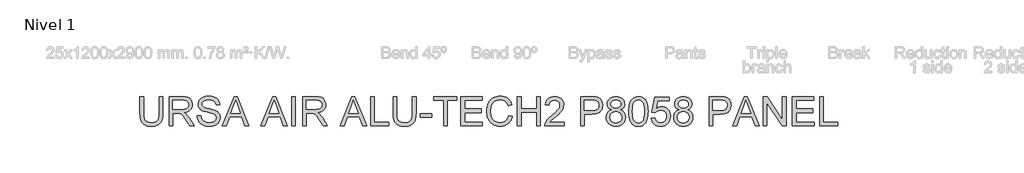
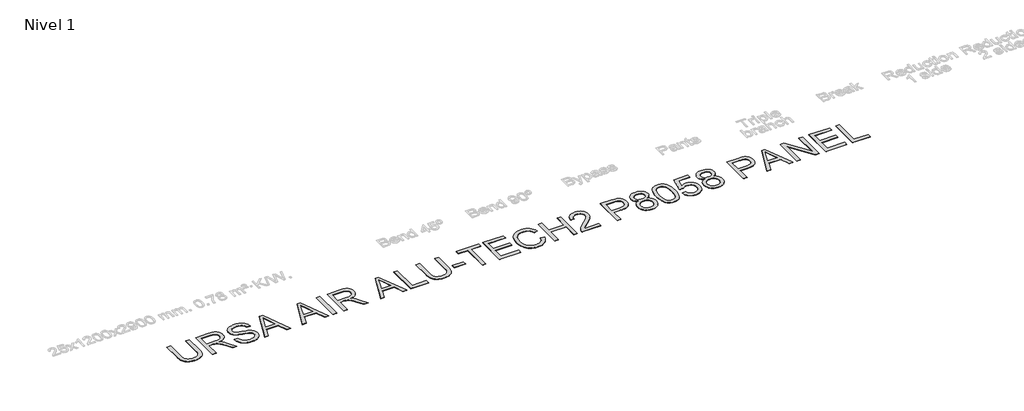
# One storey, part 3 of 6: 1 proxy.
"""IFC4 building model written with IfcOpenShell, lengths in millimetres."""

from ifc_helpers import new_model, si_unit, origin, origin_with_axes, place, context, project, spatial, polyline, outline, extrude, element, save

model = new_model("IFC4")

# Units and contexts
model_context = context("Model", 3, world=origin())
ifc_project = project(units=[si_unit("LENGTHUNIT", "METRE", prefix="MILLI")], contexts=[model_context])

# Site, building, storey
site = spatial("IfcSite", under=ifc_project)
building = spatial("IfcBuilding", under=site)
storey = spatial("IfcBuildingStorey", under=building, Name="Nivel 1", Elevation=0.0)

# Proxy
placement = place(None, origin())
element("IfcBuildingElementProxy", 1, Name="Texto de modelo 2", ObjectType="Texto de modelo 2", at=placement, inside=storey, context=model_context, shape_type="SweptSolid", body=[
    extrude(outline(polyline([(-18860.536209, -2321.7490961), (-18734.9658214, -2321.7490961), (-18734.9658214, -2901.2858659), (-18737.0964712, -2973.0458476), (-18743.4884209, -3037.0036653), (-18754.1416704, -3093.159319), (-18769.0562196, -3141.5128087), (-18789.5196556, -3183.8958802), (-18816.8195653, -3222.1402793), (-18850.9559488, -3256.246006), (-18891.928806, -3286.2130602), (-18939.7841222, -3310.6235634), (-18994.5678826, -3328.0596371), (-19056.2800873, -3338.5212813), (-19124.9207362, -3342.0084961), (-19191.8675952, -3338.9734696), (-19252.4225044, -3329.8683902), (-19306.585464, -3314.6932579), (-19354.3564739, -3293.4480727), (-19395.7431984, -3266.4470671), (-19430.7533016, -3234.0044737), (-19459.3867835, -3196.1202924), (-19481.6436442, -3152.7945232), (-19498.3286256, -3102.5403099), (-19510.2464694, -3043.8707958), (-19517.3971756, -2976.7859812), (-19519.7807444, -2901.2858659), (-19519.7807444, -2321.7490961), (-19394.2103567, -2321.7490961), (-19394.2103567, -2896.8712819), (-19392.6621866, -2957.5794753), (-19388.0176765, -3009.7190839), (-19380.2768261, -3053.2901078), (-19369.4396357, -3088.2925467), (-19354.8316548, -3117.2555897), (-19335.7784331, -3142.7084252), (-19312.2799707, -3164.6510534), (-19284.3362675, -3183.0834742), (-19252.4838181, -3197.6761266), (-19217.259117, -3208.0994498), (-19178.6621644, -3214.3534438), (-19136.6929601, -3216.4381084), (-19067.4851597, -3212.3147644), (-19008.9765941, -3199.9447323), (-18961.1672631, -3179.3280121), (-18941.2748107, -3165.927144), (-18924.0571669, -3150.4646039), (-18909.1694424, -3132.0705042), (-18896.2667478, -3109.8749571), (-18876.4164485, -3054.0795212), (-18864.5062689, -2983.0782961), (-18860.536209, -2896.8712819), (-18860.536209, -2321.7490961)])), origin_with_axes(), (0.0, 0.0, 1.0), 10.0),
    extrude(outline(polyline([(-18515.2176429, -3326.3121976), (-18515.2176429, -2321.7490961), (-18082.3431619, -2321.7490961), (-18020.2094258, -2323.4428862), (-17966.0004809, -2328.5242562), (-17919.7163274, -2336.9932063), (-17881.3569652, -2348.8497364), (-17848.6921097, -2365.0058874), (-17819.4914764, -2386.3737), (-17793.7550651, -2412.9531741), (-17771.482876, -2444.7443099), (-17753.5103077, -2480.0379888), (-17740.6727589, -2517.1250924), (-17732.9702296, -2556.0056208), (-17730.4027199, -2596.6795739), (-17734.6563554, -2648.2750237), (-17747.4172621, -2695.6398306), (-17768.68544, -2738.7739945), (-17798.460889, -2777.6775155), (-17837.1268195, -2811.1087918), (-17885.066442, -2837.8262217), (-17942.2797565, -2857.8298052), (-18008.7667629, -2871.1195423), (-17967.3800384, -2898.1588689), (-17937.3976558, -2924.8303136), (-17885.9554902, -2985.8374111), (-17835.6169705, -3054.0795212), (-17668.1080353, -3326.3121976), (-17814.0345601, -3326.3121976), (-17944.7552957, -3118.0909884), (-17997.0558527, -3038.6284774), (-18039.1783411, -2980.2578675), (-18074.2804148, -2940.0667595), (-18105.5197276, -2915.1427544), (-18135.1035714, -2900.519445), (-18165.2392382, -2891.2304247), (-18238.0798732, -2886.8158407), (-18389.6472552, -2886.8158407), (-18389.6472552, -3326.3121976), (-18515.2176429, -3326.3121976)]), holes=[polyline([(-18389.6472552, -2761.245453), (-18108.5854109, -2761.245453), (-18027.8659698, -2756.8002123), (-17965.2340601, -2743.4644899), (-17940.0494719, -2733.2404362), (-17918.0838511, -2720.3492379), (-17899.3371977, -2704.7908952), (-17883.8095118, -2686.565408), (-17871.631085, -2666.5694887), (-17862.9322086, -2645.6998497), (-17857.7128828, -2623.956491), (-17855.9731075, -2601.3394125), (-17859.2917097, -2569.22638), (-17869.2475162, -2540.0870603), (-17885.840527, -2513.9214534), (-17909.0707422, -2490.7295593), (-17939.4746562, -2471.7376513), (-17977.5887638, -2458.1720027), (-18023.4130648, -2450.0326135), (-18076.9475593, -2447.3194838), (-18389.6472552, -2447.3194838), (-18389.6472552, -2761.245453)])]), origin_with_axes(), (0.0, 0.0, 1.0), 10.0),
    extrude(outline(polyline([(-17557.7434368, -2980.9936315), (-17432.1730491, -2980.9936315), (-17426.4248929, -3017.5442406), (-17417.7643376, -3050.6766127), (-17406.1913832, -3080.3907481), (-17391.7060296, -3106.6866465), (-17373.572513, -3130.0931385), (-17351.0550692, -3151.1390543), (-17324.1536983, -3169.8243939), (-17292.8684003, -3186.1491575), (-17258.3488064, -3199.4005735), (-17221.7445479, -3208.8658707), (-17183.0556247, -3214.545049), (-17142.2820369, -3216.4381084), (-17072.3231442, -3210.7052806), (-17040.6086505, -3203.5392459), (-17011.070792, -3193.5067974), (-16984.4376683, -3180.9681527), (-16961.4373794, -3166.2835297), (-16942.0699252, -3149.4529284), (-16926.3353057, -3130.4763489), (-16914.1568789, -3110.1738613), (-16905.4580025, -3089.3655359), (-16900.2386767, -3068.0513728), (-16898.4989014, -3046.231372), (-16903.710563, -3004.200854), (-16919.3455478, -2967.872507), (-16932.4973292, -2951.7546771), (-16951.1060267, -2936.8784489), (-16975.1716406, -2923.2438225), (-17004.6941707, -2910.8507977), (-17071.0049003, -2891.1384542), (-17187.5315223, -2862.903511), (-17307.5530232, -2831.173689), (-17351.3539733, -2815.8835935), (-17384.3483897, -2800.9767085), (-17417.8793007, -2780.973125), (-17446.8576721, -2758.7315927), (-17471.2835037, -2734.2521116), (-17491.1567957, -2707.5346817), (-17506.55419, -2678.8552145), (-17517.5523288, -2648.4896215), (-17524.1512121, -2616.4379027), (-17526.3508399, -2582.700058), (-17523.6300459, -2545.3063861), (-17515.4676642, -2509.1543158), (-17501.8636946, -2474.2438473), (-17482.8181371, -2440.5749806), (-17458.5455896, -2409.5196088), (-17429.26065, -2382.4496253), (-17394.9633181, -2359.3650301), (-17355.6535941, -2340.2658232), (-17312.6573859, -2325.2976245), (-17267.3006016, -2314.6060541), (-17219.5832411, -2308.1911118), (-17169.5053045, -2306.0527977), (-17114.8748283, -2308.2907465), (-17063.5552899, -2315.0045929), (-17015.5466896, -2326.1943369), (-16970.8490272, -2341.8599785), (-16930.2900372, -2361.863562), (-16894.6974541, -2386.0671316), (-16864.0712781, -2414.4706873), (-16838.4115089, -2447.0742292), (-16817.9174161, -2482.9273953), (-16802.788269, -2521.0798239), (-16793.0240677, -2561.5315149), (-16788.6248122, -2604.2824684), (-16914.1951999, -2604.2824684), (-16922.5951721, -2564.2139878), (-16937.2491383, -2529.3571687), (-16958.1570983, -2499.7120113), (-16985.3190523, -2475.2785155), (-17019.2408379, -2456.1793085), (-17060.428293, -2442.5370179), (-17108.8814174, -2434.3516435), (-17164.6002113, -2431.6231854), (-17222.0971014, -2434.3209867), (-17271.2246762, -2442.4143906), (-17311.9829356, -2455.903397), (-17344.3718796, -2474.7880061), (-17369.0506301, -2497.4893909), (-17386.678309, -2522.4287245), (-17397.2549164, -2549.6060069), (-17400.7804522, -2579.0212381), (-17398.2819203, -2604.3284537), (-17390.7863246, -2627.2750931), (-17378.2936652, -2647.8611564), (-17360.803942, -2666.0866436), (-17333.2741061, -2683.3464406), (-17289.9253443, -2700.7901785), (-17230.7576567, -2718.4178574), (-17155.7710434, -2736.2294774), (-17017.3247859, -2769.8906799), (-16968.6110783, -2785.1117975), (-16933.5703183, -2799.2599259), (-16895.0730004, -2820.7043805), (-16861.9866134, -2844.8159796), (-16834.3111575, -2871.5947232), (-16812.0466326, -2901.0406112), (-16794.9324556, -2933.0003595), (-16782.7080435, -2967.320684), (-16775.3733962, -3004.0015846), (-16772.9285137, -3043.0430613), (-16775.7412782, -3082.3221285), (-16784.1795714, -3120.4515645), (-16798.2433935, -3157.4313692), (-16817.9327445, -3193.2615427), (-16842.9027349, -3226.5548633), (-16872.8084754, -3255.9241092), (-16907.6499661, -3281.3692806), (-16947.4272068, -3302.8903773), (-16990.9829022, -3320.0045543), (-17037.1597568, -3332.2289664), (-17085.9577706, -3339.5636137), (-17137.3769436, -3342.0084961), (-17201.6106728, -3339.3720085), (-17260.4028142, -3331.4625456), (-17313.7533677, -3318.2801074), (-17361.6623334, -3299.824694), (-17404.4209511, -3276.0656485), (-17442.3204608, -3246.972314), (-17475.3608625, -3212.5446906), (-17503.5421562, -3172.7827783), (-17526.243541, -3128.974164), (-17542.844216, -3082.4064348), (-17553.3441813, -3033.0795906), (-17557.7434368, -2980.9936315)])), origin_with_axes(), (0.0, 0.0, 1.0), 10.0),
    extrude(outline(polyline([(-16701.5594067, -3326.3121976), (-16300.5680319, -2321.7490961), (-16193.6369987, -2321.7490961), (-15792.6456239, -3326.3121976), (-15925.3283969, -3326.3121976), (-16040.352834, -3012.3862284), (-16454.0974513, -3012.3862284), (-16568.8766338, -3326.3121976), (-16701.5594067, -3326.3121976)]), holes=[polyline([(-16407.9895745, -2886.8158407), (-16086.2154561, -2886.8158407), (-16176.7144269, -2639.8443946), (-16247.1025153, -2447.3194838), (-16309.6424545, -2618.2619842), (-16407.9895745, -2886.8158407)])]), origin_with_axes(), (0.0, 0.0, 1.0), 10.0),
    extrude(outline(polyline([(-15383.070336, -3326.3121976), (-14982.0789612, -2321.7490961), (-14875.147928, -2321.7490961), (-14474.1565532, -3326.3121976), (-14606.8393261, -3326.3121976), (-14721.8637633, -3012.3862284), (-15135.6083805, -3012.3862284), (-15250.387563, -3326.3121976), (-15383.070336, -3326.3121976)]), holes=[polyline([(-15089.5005038, -2886.8158407), (-14767.7263854, -2886.8158407), (-14858.2253562, -2639.8443946), (-14928.6134446, -2447.3194838), (-14991.1533838, -2618.2619842), (-15089.5005038, -2886.8158407)])]), origin_with_axes(), (0.0, 0.0, 1.0), 10.0),
    extrude(outline(polyline([(-14324.3059538, -3326.3121976), (-14324.3059538, -2321.7490961), (-14198.7355662, -2321.7490961), (-14198.7355662, -3326.3121976), (-14324.3059538, -3326.3121976)])), origin_with_axes(), (0.0, 0.0, 1.0), 10.0),
    extrude(outline(polyline([(-13947.5947908, -3326.3121976), (-13947.5947908, -2321.7490961), (-13514.7203098, -2321.7490961), (-13452.5865737, -2323.4428862), (-13398.3776288, -2328.5242562), (-13352.0934753, -2336.9932063), (-13313.7341131, -2348.8497364), (-13281.0692576, -2365.0058874), (-13251.8686242, -2386.3737), (-13226.132213, -2412.9531741), (-13203.8600239, -2444.7443099), (-13185.8874556, -2480.0379888), (-13173.0499068, -2517.1250924), (-13165.3473775, -2556.0056208), (-13162.7798677, -2596.6795739), (-13167.0335033, -2648.2750237), (-13179.79441, -2695.6398306), (-13201.0625879, -2738.7739945), (-13230.8380369, -2777.6775155), (-13269.5039674, -2811.1087918), (-13317.4435899, -2837.8262217), (-13374.6569043, -2857.8298052), (-13441.1439108, -2871.1195423), (-13399.7571863, -2898.1588689), (-13369.7748037, -2924.8303136), (-13318.332638, -2985.8374111), (-13267.9941184, -3054.0795212), (-13100.4851832, -3326.3121976), (-13246.411708, -3326.3121976), (-13377.1324436, -3118.0909884), (-13429.4330006, -3038.6284774), (-13471.555489, -2980.2578675), (-13506.6575627, -2940.0667595), (-13537.8968755, -2915.1427544), (-13567.4807193, -2900.519445), (-13597.616386, -2891.2304247), (-13670.4570211, -2886.8158407), (-13822.0244031, -2886.8158407), (-13822.0244031, -3326.3121976), (-13947.5947908, -3326.3121976)]), holes=[polyline([(-13822.0244031, -2761.245453), (-13540.9625588, -2761.245453), (-13460.2431177, -2756.8002123), (-13397.611208, -2743.4644899), (-13372.4266197, -2733.2404362), (-13350.4609989, -2720.3492379), (-13331.7143456, -2704.7908952), (-13316.1866597, -2686.565408), (-13304.0082329, -2666.5694887), (-13295.3093565, -2645.6998497), (-13290.0900307, -2623.956491), (-13288.3502554, -2601.3394125), (-13291.6688576, -2569.22638), (-13301.6246641, -2540.0870603), (-13318.2176749, -2513.9214534), (-13341.4478901, -2490.7295593), (-13371.8518041, -2471.7376513), (-13409.9659117, -2458.1720027), (-13455.7902127, -2450.0326135), (-13509.3247072, -2447.3194838), (-13822.0244031, -2447.3194838), (-13822.0244031, -2761.245453)])]), origin_with_axes(), (0.0, 0.0, 1.0), 10.0),
    extrude(outline(polyline([(-12667.6107022, -3326.3121976), (-12266.6193275, -2321.7490961), (-12159.6882942, -2321.7490961), (-11758.6969195, -3326.3121976), (-11891.3796924, -3326.3121976), (-12006.4041296, -3012.3862284), (-12420.1487468, -3012.3862284), (-12534.9279293, -3326.3121976), (-12667.6107022, -3326.3121976)]), holes=[polyline([(-12374.0408701, -2886.8158407), (-12052.2667516, -2886.8158407), (-12142.7657224, -2639.8443946), (-12213.1538109, -2447.3194838), (-12275.69375, -2618.2619842), (-12374.0408701, -2886.8158407)])]), origin_with_axes(), (0.0, 0.0, 1.0), 10.0),
    extrude(outline(polyline([(-11624.5426186, -3326.3121976), (-11624.5426186, -2321.7490961), (-11498.9722309, -2321.7490961), (-11498.9722309, -3200.7418099), (-10996.6906801, -3200.7418099), (-10996.6906801, -3326.3121976), (-11624.5426186, -3326.3121976)])), origin_with_axes(), (0.0, 0.0, 1.0), 10.0),
    extrude(outline(polyline([(-10196.1794586, -2321.7490961), (-10070.609071, -2321.7490961), (-10070.609071, -2901.2858659), (-10072.7397208, -2973.0458476), (-10079.1316705, -3037.0036653), (-10089.7849199, -3093.159319), (-10104.6994692, -3141.5128087), (-10125.1629052, -3183.8958802), (-10152.4628149, -3222.1402793), (-10186.5991983, -3256.246006), (-10227.5720556, -3286.2130602), (-10275.4273718, -3310.6235634), (-10330.2111322, -3328.0596371), (-10391.9233369, -3338.5212813), (-10460.5639858, -3342.0084961), (-10527.5108448, -3338.9734696), (-10588.065754, -3329.8683902), (-10642.2287136, -3314.6932579), (-10689.9997235, -3293.4480727), (-10731.386448, -3266.4470671), (-10766.3965512, -3234.0044737), (-10795.0300331, -3196.1202924), (-10817.2868938, -3152.7945232), (-10833.9718752, -3102.5403099), (-10845.889719, -3043.8707958), (-10853.0404252, -2976.7859812), (-10855.423994, -2901.2858659), (-10855.423994, -2321.7490961), (-10729.8536063, -2321.7490961), (-10729.8536063, -2896.8712819), (-10728.3054362, -2957.5794753), (-10723.6609261, -3009.7190839), (-10715.9200757, -3053.2901078), (-10705.0828853, -3088.2925467), (-10690.4749044, -3117.2555897), (-10671.4216827, -3142.7084252), (-10647.9232203, -3164.6510534), (-10619.9795171, -3183.0834742), (-10588.1270677, -3197.6761266), (-10552.9023666, -3208.0994498), (-10514.305414, -3214.3534438), (-10472.3362097, -3216.4381084), (-10403.1284093, -3212.3147644), (-10344.6198437, -3199.9447323), (-10296.8105127, -3179.3280121), (-10276.9180603, -3165.927144), (-10259.7004165, -3150.4646039), (-10244.812692, -3132.0705042), (-10231.9099974, -3109.8749571), (-10212.0596981, -3054.0795212), (-10200.1495185, -2983.0782961), (-10196.1794586, -2896.8712819), (-10196.1794586, -2321.7490961)])), origin_with_axes(), (0.0, 0.0, 1.0), 10.0),
    extrude(outline(polyline([(-9929.3423848, -3028.0825269), (-9929.3423848, -2902.5121392), (-9536.9349233, -2902.5121392), (-9536.9349233, -3028.0825269), (-9929.3423848, -3028.0825269)])), origin_with_axes(), (0.0, 0.0, 1.0), 10.0),
    extrude(outline(polyline([(-9128.8311633, -3326.3121976), (-9128.8311633, -2447.3194838), (-9458.453431, -2447.3194838), (-9458.453431, -2321.7490961), (-8673.6385079, -2321.7490961), (-8673.6385079, -2447.3194838), (-9003.2607756, -2447.3194838), (-9003.2607756, -3326.3121976), (-9128.8311633, -3326.3121976)])), origin_with_axes(), (0.0, 0.0, 1.0), 10.0),
    extrude(outline(polyline([(-8532.3718218, -3326.3121976), (-8532.3718218, -2321.7490961), (-7810.3420926, -2321.7490961), (-7810.3420926, -2447.3194838), (-8406.8014341, -2447.3194838), (-8406.8014341, -2745.5491546), (-7841.7346895, -2745.5491546), (-7841.7346895, -2871.1195423), (-8406.8014341, -2871.1195423), (-8406.8014341, -3200.7418099), (-7794.6457941, -3200.7418099), (-7794.6457941, -3326.3121976), (-8532.3718218, -3326.3121976)])), origin_with_axes(), (0.0, 0.0, 1.0), 10.0),
    extrude(outline(polyline([(-6899.9567819, -2969.2214076), (-6774.3863942, -3001.5950232), (-6799.2337573, -3079.6856409), (-6832.3278084, -3147.9200868), (-6873.6685476, -3206.2983609), (-6897.4314252, -3231.7914335), (-6923.2559749, -3254.8204632), (-6979.9711158, -3292.9652276), (-7042.694996, -3320.2114879), (-7111.4276154, -3336.559244), (-7186.1689741, -3342.0084961), (-7262.7420786, -3337.8851521), (-7331.8195874, -3325.51512), (-7393.4015005, -3304.8983998), (-7447.487818, -3276.0349916), (-7494.8219681, -3239.354091), (-7536.1473788, -3195.2848937), (-7571.4640504, -3143.8273996), (-7600.7719827, -3084.9816088), (-7623.7876, -3021.2920384), (-7640.2273266, -2955.3032055), (-7650.0911626, -2887.0151101), (-7653.379108, -2816.4277523), (-7649.661967, -2740.6900466), (-7638.510544, -2669.9494046), (-7619.924839, -2604.2058263), (-7593.9048521, -2543.4593119), (-7561.033063, -2488.7138725), (-7521.8919515, -2440.9735194), (-7476.4815178, -2400.2382526), (-7424.8017616, -2366.5080722), (-7368.6077869, -2340.0588896), (-7309.6546971, -2321.1666163), (-7247.9424925, -2309.8312523), (-7183.4711728, -2306.0527977), (-7111.6498775, -2310.9425625), (-7045.7913361, -2325.6118571), (-6985.8955488, -2350.0606813), (-6931.9625154, -2384.2890353), (-6884.8812843, -2427.3925424), (-6845.5409034, -2478.4668261), (-6813.9413729, -2537.5118863), (-6790.0826926, -2604.5277231), (-6915.6530803, -2634.448792), (-6935.4267376, -2585.0682984), (-6959.1857831, -2542.8768321), (-6986.9302169, -2507.8743931), (-7018.660039, -2480.0609814), (-7054.5591903, -2458.8694456), (-7094.811612, -2443.7326344), (-7139.4173039, -2434.6505476), (-7188.3762661, -2431.6231854), (-7244.7081966, -2434.9801086), (-7296.2270043, -2445.0508782), (-7342.9326893, -2461.8354942), (-7384.8252515, -2485.3339567), (-7421.3758606, -2514.4886048), (-7452.0556861, -2548.2417778), (-7476.8647282, -2586.5934758), (-7495.8029867, -2629.5436988), (-7509.8054951, -2675.1457377), (-7519.8072869, -2721.4528839), (-7525.8083619, -2768.4651372), (-7527.8087203, -2816.1824977), (-7525.4404799, -2876.1472629), (-7518.3357589, -2932.1879535), (-7506.4945572, -2984.3045694), (-7489.9168748, -3032.4971108), (-7468.3344644, -3075.8075515), (-7441.4790788, -3113.2778656), (-7409.3507178, -3144.908053), (-7371.9493817, -3170.6981137), (-7331.0914876, -3190.7093614), (-7288.5934529, -3205.0031097), (-7244.4552777, -3213.5793587), (-7198.6769619, -3216.4381084), (-7144.0848067, -3212.5446906), (-7093.8612501, -3200.8644373), (-7048.0062923, -3181.3973484), (-7006.5199331, -3154.1434239), (-6970.3831913, -3119.2252912), (-6940.5770855, -3076.7655776), (-6917.1016157, -3026.7642831), (-6899.9567819, -2969.2214076)])), origin_with_axes(), (0.0, 0.0, 1.0), 10.0),
    extrude(outline(polyline([(-6601.7271111, -3326.3121976), (-6601.7271111, -2321.7490961), (-6476.1567234, -2321.7490961), (-6476.1567234, -2729.8528561), (-5942.4825757, -2729.8528561), (-5942.4825757, -2321.7490961), (-5816.9121881, -2321.7490961), (-5816.9121881, -3326.3121976), (-5942.4825757, -3326.3121976), (-5942.4825757, -2855.4232438), (-6476.1567234, -2855.4232438), (-6476.1567234, -3326.3121976), (-6601.7271111, -3326.3121976)])), origin_with_axes(), (0.0, 0.0, 1.0), 10.0),
    extrude(outline(polyline([(-5000.7046681, -3200.7418099), (-5000.7046681, -3326.3121976), (-5659.9492034, -3326.3121976), (-5657.1900885, -3282.1050445), (-5646.460197, -3239.7373014), (-5632.7719211, -3205.6545674), (-5615.4967957, -3172.0776712), (-5594.6348209, -3139.0066126), (-5570.1859966, -3106.4413918), (-5540.6787949, -3073.1097502), (-5504.6416878, -3037.7394292), (-5412.9777573, -2960.8827491), (-5277.4745558, -2840.524023), (-5230.0484352, -2792.162869), (-5196.1726349, -2751.6805212), (-5172.4595746, -2715.382831), (-5155.5216744, -2679.5756501), (-5145.3589343, -2644.2589786), (-5141.9713542, -2609.4328164), (-5145.1673291, -2576.6683262), (-5154.7552536, -2546.555652), (-5170.7351277, -2519.0947939), (-5193.1069516, -2494.2857519), (-5220.6291233, -2473.7380096), (-5252.0600413, -2459.0610508), (-5287.3997055, -2450.2548756), (-5326.6481158, -2447.3194838), (-5367.9965192, -2450.1858977), (-5404.976324, -2458.7851393), (-5437.58753, -2473.1172087), (-5465.8301373, -2493.1821059), (-5488.6771421, -2518.3053805), (-5505.1015403, -2547.8125822), (-5515.1033321, -2581.703711), (-5518.6825173, -2619.9787669), (-5644.252905, -2604.2824684), (-5633.4540356, -2539.4585952), (-5613.8106699, -2482.8200964), (-5585.3228079, -2434.3669719), (-5547.9904496, -2394.0992219), (-5502.6719863, -2362.4460418), (-5450.2258094, -2339.8366276), (-5390.6519188, -2326.270979), (-5323.9503145, -2321.7490961), (-5256.650902, -2326.7768167), (-5196.7551147, -2341.8599785), (-5144.2629525, -2366.9985815), (-5099.1744155, -2402.1926257), (-5062.9610316, -2444.8362804), (-5037.0943288, -2492.3237146), (-5021.5743071, -2544.6549284), (-5016.4009665, -2601.8299218), (-5021.9805101, -2661.8866575), (-5038.7191409, -2720.9010609), (-5068.425612, -2780.9271398), (-5112.9086766, -2844.018902), (-5143.6038306, -2879.0060125), (-5183.8179312, -2919.3427405), (-5292.8029723, -3016.0650484), (-5437.257969, -3136.8529701), (-5468.5892523, -3168.7054195), (-5493.9117963, -3200.7418099), (-5000.7046681, -3200.7418099)])), origin_with_axes(), (0.0, 0.0, 1.0), 10.0),
    extrude(outline(polyline([(-4435.6379235, -3326.3121976), (-4435.6379235, -2321.7490961), (-4063.3413444, -2321.7490961), (-3976.6438208, -2324.1403291), (-3913.2454903, -2331.314028), (-3878.304365, -2338.8479447), (-3846.3216241, -2349.1869616), (-3817.2972675, -2362.3310787), (-3791.2312953, -2378.2802961), (-3767.847796, -2397.3641746), (-3746.870858, -2419.9122752), (-3728.3004815, -2445.9245979), (-3712.1366663, -2475.4011428), (-3699.0461987, -2507.3685553), (-3689.6958646, -2540.8534811), (-3684.0856642, -2575.8559201), (-3682.2155974, -2612.3758723), (-3687.2663106, -2674.0420918), (-3702.4184503, -2730.7725611), (-3727.6720164, -2782.5672803), (-3763.027009, -2829.4262495), (-3785.2627931, -2850.2345748), (-3811.5644397, -2868.2684568), (-3841.9319488, -2883.5278954), (-3876.3653203, -2896.0128906), (-3914.8645543, -2905.7234424), (-3957.4296508, -2912.6595509), (-4054.7574312, -2918.2084376), (-4310.0675358, -2918.2084376), (-4310.0675358, -3326.3121976), (-4435.6379235, -3326.3121976)]), holes=[polyline([(-4310.0675358, -2792.63805), (-4047.3997913, -2792.63805), (-3987.0058304, -2789.7563077), (-3936.054174, -2781.1110808), (-3894.5448223, -2766.7023693), (-3862.477775, -2746.5301732), (-3838.5501169, -2721.1309871), (-3821.4589325, -2691.0413056), (-3811.2042219, -2656.2611287), (-3807.7859851, -2616.7904563), (-3809.8016718, -2587.482524), (-3815.8487321, -2560.3818837), (-3825.9271659, -2535.4885353), (-3840.0369733, -2512.802479), (-3857.4270618, -2493.0594786), (-3877.346339, -2476.9952981), (-3899.7948049, -2464.6099376), (-3924.7724595, -2455.903397), (-3973.2102556, -2449.4654621), (-4050.3428472, -2447.3194838), (-4310.0675358, -2447.3194838), (-4310.0675358, -2792.63805)])]), origin_with_axes(), (0.0, 0.0, 1.0), 10.0),
    extrude(outline(polyline([(-3373.6852308, -2773.0176769), (-3409.8066442, -2757.9345151), (-3440.9156654, -2739.9082973), (-3467.0122944, -2718.9390236), (-3488.0965313, -2695.0266939), (-3504.3523169, -2668.4012345), (-3515.9635924, -2639.2925716), (-3522.9303577, -2607.7007053), (-3525.2526128, -2573.6256355), (-3520.1942353, -2522.4133961), (-3505.019103, -2475.4624565), (-3479.7272159, -2432.7728166), (-3444.3185738, -2394.3444765), (-3400.4946312, -2362.5839976), (-3349.9568421, -2339.8979412), (-3292.7052066, -2326.2863074), (-3228.7397247, -2321.7490961), (-3164.4676744, -2326.3936063), (-3106.7868433, -2340.3271369), (-3055.6972312, -2363.5496878), (-3011.1988382, -2396.0612592), (-2975.1464026, -2435.2406916), (-2949.394663, -2478.4668261), (-2933.9436192, -2525.7396625), (-2928.7932713, -2577.0592008), (-2931.0848695, -2609.9309899), (-2937.9596643, -2640.6108155), (-2949.4176556, -2669.0986775), (-2965.4588434, -2695.3945759), (-2986.1598699, -2719.1459572), (-3011.597377, -2740.0002678), (-3041.7713648, -2757.9575077), (-3076.6818333, -2773.0176769), (-3035.410072, -2790.5763779), (-2999.3959575, -2812.8409029), (-2968.6394899, -2839.8112516), (-2943.1406691, -2871.4874243), (-2923.1294214, -2907.1643136), (-2908.835673, -2946.1368124), (-2900.259424, -2988.4049209), (-2897.4006743, -3033.9686388), (-2903.0721884, -3096.6005485), (-2920.0867307, -3154.0207966), (-2948.4443012, -3206.229383), (-2988.1448998, -3253.2263079), (-3011.7276685, -3274.0346333), (-3037.103862, -3292.0685152), (-3064.2734802, -3307.3279538), (-3093.2365231, -3319.812949), (-3156.5428831, -3336.4596093), (-3227.022942, -3342.0084961), (-3297.5030009, -3336.4366167), (-3360.8093609, -3319.7209785), (-3389.7724038, -3307.1842499), (-3416.942022, -3291.8615816), (-3442.3182155, -3273.7529736), (-3465.9009842, -3252.8584259), (-3505.6015829, -3205.5319401), (-3533.9591533, -3152.7025527), (-3550.9736956, -3094.3702639), (-3556.6452097, -3030.5350735), (-3553.6714969, -2982.8943551), (-3544.7503585, -2939.3003387), (-3529.8817945, -2899.7530242), (-3509.065805, -2864.2524117), (-3482.7622423, -2833.4422946), (-3451.4309591, -2807.9664664), (-3415.0719552, -2787.8249272), (-3373.6852308, -2773.0176769)]), holes=[polyline([(-3399.6822251, -2577.3044554), (-3396.9001175, -2606.0912216), (-3388.5537947, -2632.1188727), (-3374.6432568, -2655.3874089), (-3355.1685037, -2675.8968302), (-3330.37479, -2692.6354609), (-3300.5073705, -2704.5916258), (-3265.5662452, -2711.7653247), (-3225.551414, -2714.1565577), (-3186.5252657, -2711.7806531), (-3152.342897, -2704.6529394), (-3123.0043079, -2692.7734167), (-3098.5094984, -2676.1420848), (-3079.1956936, -2656.0618593), (-3065.4001188, -2633.8356554), (-3057.1227739, -2609.4634732), (-3054.3636589, -2582.9453127), (-3057.2147444, -2555.3924841), (-3065.7680008, -2530.1235896), (-3080.0234281, -2507.1386291), (-3099.9810263, -2486.4376026), (-3125.0276588, -2469.3234257), (-3154.550189, -2457.0990135), (-3188.5486167, -2449.7643662), (-3227.022942, -2447.3194838), (-3265.7961715, -2449.7107168), (-3299.9555476, -2456.8844157), (-3329.5010703, -2468.8405805), (-3354.4327397, -2485.5792113), (-3374.2293895, -2505.6594369), (-3388.3698537, -2527.6403861), (-3396.8541322, -2551.522059), (-3399.6822251, -2577.3044554)]), polyline([(-3431.074822, -3026.1204896), (-3425.8325036, -3074.1597468), (-3410.1055483, -3120.6661623), (-3397.6052246, -3142.2409085), (-3381.0735275, -3161.2251523), (-3360.5104568, -3177.6188937), (-3335.9160126, -3191.4221327), (-3281.8373593, -3210.1841145), (-3226.0419234, -3216.4381084), (-3180.6391538, -3213.1501631), (-3140.5706731, -3203.2863271), (-3105.8364814, -3186.8466004), (-3076.4365786, -3163.8309831), (-3053.0454151, -3135.7416599), (-3036.3374412, -3104.0808157), (-3026.3126568, -3068.8484505), (-3022.971062, -3030.0445642), (-3026.4199557, -2990.619877), (-3036.7666368, -2954.7513825), (-3054.0111054, -2922.4390806), (-3078.1533613, -2893.6829713), (-3108.3503417, -2870.0772099), (-3143.7589838, -2853.2159518), (-3184.3792874, -2843.099197), (-3230.2112526, -2839.7269453), (-3274.9472361, -2843.0532117), (-3314.4868864, -2853.0320108), (-3348.8302035, -2869.6633427), (-3377.9771874, -2892.9472073), (-3401.2074025, -2921.2281357), (-3417.8004133, -2952.8506589), (-3427.7562198, -2987.8147768), (-3431.074822, -3026.1204896)])]), origin_with_axes(), (0.0, 0.0, 1.0), 10.0),
    extrude(outline(polyline([(-2787.5265851, -2832.1240508), (-2785.2196584, -2747.6568118), (-2778.2988784, -2671.3289621), (-2766.764245, -2603.1405014), (-2750.6157583, -2543.0914299), (-2729.922396, -2490.6912382), (-2704.7531362, -2445.449417), (-2675.1079787, -2407.3659663), (-2640.9869237, -2376.4408861), (-2602.2750079, -2352.513228), (-2558.8572683, -2335.4220436), (-2510.7337048, -2325.167333), (-2457.9043174, -2321.7490961), (-2418.2037188, -2323.7724471), (-2380.5264711, -2329.8425), (-2344.8725744, -2339.9592549), (-2311.2420287, -2354.1227117), (-2280.44724, -2372.09528), (-2253.3006144, -2393.6393694), (-2229.802152, -2418.7549797), (-2209.9518527, -2447.4421112), (-2177.2103551, -2515.0710846), (-2151.0907334, -2596.0664372), (-2141.1119343, -2643.6994914), (-2133.9842207, -2698.9201117), (-2128.2820497, -2832.1240508), (-2130.5659838, -2916.0547951), (-2137.417786, -2991.9994345), (-2148.8374562, -3059.9579689), (-2164.8249946, -3119.9303983), (-2185.3574085, -3172.3535826), (-2210.4117052, -3217.6643817), (-2239.9878847, -3255.8627956), (-2274.0859472, -3286.9488241), (-2312.8438482, -3311.0374306), (-2356.3995436, -3328.2435781), (-2404.7530333, -3338.5672666), (-2457.9043174, -3342.0084961), (-2527.0661325, -3336.0304137), (-2558.7039841, -3328.5578106), (-2588.3797984, -3318.0961664), (-2616.0935754, -3304.645481), (-2641.845315, -3288.2057543), (-2665.6350174, -3268.7769864), (-2687.4626824, -3246.3591773), (-2710.9151596, -3210.8623969), (-2731.2406398, -3170.7134421), (-2748.4391231, -3125.9123129), (-2762.5106094, -3076.4590092), (-2773.4550988, -3022.3535312), (-2781.2725912, -2963.5958788), (-2785.9630866, -2900.186052), (-2787.5265851, -2832.1240508)]), holes=[polyline([(-2661.9561974, -2831.8787961), (-2658.2773775, -2941.040114), (-2647.2409176, -3029.4007707), (-2628.8468179, -3096.9607663), (-2616.890653, -3122.9405161), (-2603.0950782, -3143.7201007), (-2571.9477359, -3175.5342291), (-2537.3668284, -3198.2586065), (-2499.3523555, -3211.8932329), (-2457.9043174, -3216.4381084), (-2416.4562793, -3211.8779045), (-2378.4418065, -3198.1972928), (-2343.8608989, -3175.3962733), (-2312.7135567, -3143.474846), (-2298.9179818, -3122.6454441), (-2286.961817, -3096.6388695), (-2268.5677172, -3029.0942024), (-2257.5312574, -2940.8408446), (-2253.8524374, -2831.8787961), (-2257.4086301, -2725.6068848), (-2268.0772079, -2638.8020623), (-2285.858171, -2571.4643288), (-2297.415797, -2545.0956204), (-2310.7515194, -2523.5936842), (-2341.3776955, -2490.2237215), (-2376.3571418, -2466.3880339), (-2415.6898585, -2452.0866213), (-2459.3758454, -2447.3194838), (-2500.6092857, -2451.5194699), (-2537.979965, -2464.1194283), (-2571.4878834, -2485.1193588), (-2601.1330409, -2514.5192616), (-2615.3884682, -2538.308964), (-2627.7431719, -2566.6358776), (-2646.7504083, -2636.9013387), (-2658.1547501, -2725.3156448), (-2661.9561974, -2831.8787961)])]), origin_with_axes(), (0.0, 0.0, 1.0), 10.0),
    extrude(outline(polyline([(-2018.4079605, -3059.4751238), (-1892.8375728, -3043.7788253), (-1883.456582, -3084.1462101), (-1869.7836345, -3119.1639775), (-1851.8187304, -3148.8321276), (-1829.5618697, -3173.1506603), (-1803.0590376, -3192.0889188), (-1772.3562194, -3205.6162464), (-1737.4534151, -3213.7326429), (-1698.3506247, -3216.4381084), (-1650.5259653, -3212.6749822), (-1608.3421632, -3201.3856034), (-1571.7992184, -3182.5699722), (-1540.8971308, -3156.2280885), (-1516.3256792, -3123.6628677), (-1498.7746423, -3086.1772253), (-1488.2440202, -3043.7711611), (-1484.7338129, -2996.4446753), (-1488.0217582, -2951.716356), (-1497.8855942, -2911.9544437), (-1514.3253208, -2877.1589384), (-1537.3409382, -2847.3298399), (-1567.0090882, -2823.4021818), (-1603.4064131, -2806.3109974), (-1646.5329129, -2796.0562868), (-1696.3885874, -2792.63805), (-1757.3037144, -2798.0949662), (-1783.4156719, -2804.9161115), (-1806.6305586, -2814.465715), (-1846.0245889, -2839.5430043), (-1877.1412744, -2871.1195423), (-2002.7116621, -2855.4232438), (-1892.8375728, -2337.4453946), (-1406.2523205, -2337.4453946), (-1406.2523205, -2463.0157823), (-1791.3021422, -2463.0157823), (-1845.0129135, -2739.6630427), (-1800.6984615, -2707.9025637), (-1755.3110203, -2685.2165074), (-1708.85059, -2671.6048735), (-1661.3171705, -2667.0676623), (-1600.164453, -2672.6931911), (-1543.9934709, -2689.5697776), (-1492.8042241, -2717.6974219), (-1446.5967127, -2757.0761238), (-1408.3446494, -2805.299322), (-1381.021747, -2859.9604551), (-1364.6280056, -2921.0595231), (-1359.1634252, -2988.5965261), (-1364.0838468, -3053.6503255), (-1378.8451119, -3114.1669137), (-1403.4472203, -3170.1462907), (-1437.8901721, -3221.5884563), (-1462.8908194, -3249.8119032), (-1490.0681018, -3274.2722237), (-1519.4220193, -3294.9694181), (-1550.952572, -3311.9034862), (-1584.6597598, -3325.074428), (-1620.5435827, -3334.4822436), (-1658.6040408, -3340.126933), (-1698.841134, -3342.0084961), (-1763.6420147, -3337.1723807), (-1822.1735729, -3322.6640345), (-1874.4358089, -3298.4834575), (-1920.4287225, -3264.6306498), (-1958.6961142, -3222.791737), (-1987.7817844, -3174.6528451), (-2007.6857332, -3120.213974), (-2018.4079605, -3059.4751238)])), origin_with_axes(), (0.0, 0.0, 1.0), 10.0),
    extrude(outline(polyline([(-1066.329357, -2773.0176769), (-1102.4507704, -2757.9345151), (-1133.5597916, -2739.9082973), (-1159.6564207, -2718.9390236), (-1180.7406575, -2695.0266939), (-1196.9964432, -2668.4012345), (-1208.6077186, -2639.2925716), (-1215.5744839, -2607.7007053), (-1217.896739, -2573.6256355), (-1212.8383616, -2522.4133961), (-1197.6632293, -2475.4624565), (-1172.3713421, -2432.7728166), (-1136.9627001, -2394.3444765), (-1093.1387574, -2362.5839976), (-1042.6009683, -2339.8979412), (-985.3493328, -2326.2863074), (-921.3838509, -2321.7490961), (-857.1118007, -2326.3936063), (-799.4309695, -2340.3271369), (-748.3413574, -2363.5496878), (-703.8429644, -2396.0612592), (-667.7905289, -2435.2406916), (-642.0387892, -2478.4668261), (-626.5877454, -2525.7396625), (-621.4373975, -2577.0592008), (-623.7289958, -2609.9309899), (-630.6037905, -2640.6108155), (-642.0617819, -2669.0986775), (-658.1029697, -2695.3945759), (-678.8039961, -2719.1459572), (-704.2415033, -2740.0002678), (-734.4154911, -2757.9575077), (-769.3259596, -2773.0176769), (-728.0541982, -2790.5763779), (-692.0400837, -2812.8409029), (-661.2836161, -2839.8112516), (-635.7847953, -2871.4874243), (-615.7735476, -2907.1643136), (-601.4797993, -2946.1368124), (-592.9035503, -2988.4049209), (-590.0448006, -3033.9686388), (-595.7163147, -3096.6005485), (-612.730857, -3154.0207966), (-641.0884274, -3206.229383), (-680.7890261, -3253.2263079), (-704.3717948, -3274.0346333), (-729.7479882, -3292.0685152), (-756.9176064, -3307.3279538), (-785.8806493, -3319.812949), (-849.1870094, -3336.4596093), (-919.6670683, -3342.0084961), (-990.1471272, -3336.4366167), (-1053.4534872, -3319.7209785), (-1082.4165301, -3307.1842499), (-1109.5861483, -3291.8615816), (-1134.9623417, -3273.7529736), (-1158.5451105, -3252.8584259), (-1198.2457091, -3205.5319401), (-1226.6032796, -3152.7025527), (-1243.6178218, -3094.3702639), (-1249.2893359, -3030.5350735), (-1246.3156231, -2982.8943551), (-1237.3944848, -2939.3003387), (-1222.5259208, -2899.7530242), (-1201.7099312, -2864.2524117), (-1175.4063686, -2833.4422946), (-1144.0750853, -2807.9664664), (-1107.7160815, -2787.8249272), (-1066.329357, -2773.0176769)]), holes=[polyline([(-1092.3263513, -2577.3044554), (-1089.5442437, -2606.0912216), (-1081.197921, -2632.1188727), (-1067.287383, -2655.3874089), (-1047.8126299, -2675.8968302), (-1023.0189163, -2692.6354609), (-993.1514968, -2704.5916258), (-958.2103715, -2711.7653247), (-918.1955403, -2714.1565577), (-879.169392, -2711.7806531), (-844.9870232, -2704.6529394), (-815.6484341, -2692.7734167), (-791.1536246, -2676.1420848), (-771.8398199, -2656.0618593), (-758.044245, -2633.8356554), (-749.7669002, -2609.4634732), (-747.0077852, -2582.9453127), (-749.8588707, -2555.3924841), (-758.412127, -2530.1235896), (-772.6675544, -2507.1386291), (-792.6251526, -2486.4376026), (-817.6717851, -2469.3234257), (-847.1943152, -2457.0990135), (-881.1927429, -2449.7643662), (-919.6670683, -2447.3194838), (-958.4402977, -2449.7107168), (-992.5996738, -2456.8844157), (-1022.1451965, -2468.8405805), (-1047.0768659, -2485.5792113), (-1066.8735158, -2505.6594369), (-1081.01398, -2527.6403861), (-1089.4982585, -2551.522059), (-1092.3263513, -2577.3044554)]), polyline([(-1123.7189483, -3026.1204896), (-1118.4766298, -3074.1597468), (-1102.7496745, -3120.6661623), (-1090.2493509, -3142.2409085), (-1073.7176537, -3161.2251523), (-1053.1545831, -3177.6188937), (-1028.5601388, -3191.4221327), (-974.4814855, -3210.1841145), (-918.6860496, -3216.4381084), (-873.28328, -3213.1501631), (-833.2147994, -3203.2863271), (-798.4806077, -3186.8466004), (-769.0807049, -3163.8309831), (-745.6895414, -3135.7416599), (-728.9815674, -3104.0808157), (-718.9567831, -3068.8484505), (-715.6151883, -3030.0445642), (-719.064082, -2990.619877), (-729.4107631, -2954.7513825), (-746.6552316, -2922.4390806), (-770.7974875, -2893.6829713), (-800.994468, -2870.0772099), (-836.40311, -2853.2159518), (-877.0234137, -2843.099197), (-922.8553789, -2839.7269453), (-967.5913623, -2843.0532117), (-1007.1310126, -2853.0320108), (-1041.4743297, -2869.6633427), (-1070.6213136, -2892.9472073), (-1093.8515288, -2921.2281357), (-1110.4445396, -2952.8506589), (-1120.4003461, -2987.8147768), (-1123.7189483, -3026.1204896)])]), origin_with_axes(), (0.0, 0.0, 1.0), 10.0),
    extrude(outline(polyline([(-40.6743545, -3326.3121976), (-40.6743545, -2321.7490961), (331.6222247, -2321.7490961), (418.3197482, -2324.1403291), (481.7180787, -2331.314028), (516.659204, -2338.8479447), (548.641945, -2349.1869616), (577.6663016, -2362.3310787), (603.7322738, -2378.2802961), (627.1157731, -2397.3641746), (648.092711, -2419.9122752), (666.6630876, -2445.9245979), (682.8269027, -2475.4011428), (695.9173704, -2507.3685553), (705.2677044, -2540.8534811), (710.8779049, -2575.8559201), (712.7479717, -2612.3758723), (707.6972584, -2674.0420918), (692.5451188, -2730.7725611), (667.2915526, -2782.5672803), (631.9365601, -2829.4262495), (609.7007759, -2850.2345748), (583.3991293, -2868.2684568), (553.0316203, -2883.5278954), (518.5982487, -2896.0128906), (480.0990147, -2905.7234424), (437.5339182, -2912.6595509), (340.2061379, -2918.2084376), (84.8960332, -2918.2084376), (84.8960332, -3326.3121976), (-40.6743545, -3326.3121976)]), holes=[polyline([(84.8960332, -2792.63805), (347.5637778, -2792.63805), (407.9577387, -2789.7563077), (458.909395, -2781.1110808), (500.4187468, -2766.7023693), (532.485794, -2746.5301732), (556.4134521, -2721.1309871), (573.5046365, -2691.0413056), (583.7593471, -2656.2611287), (587.177584, -2616.7904563), (585.1618972, -2587.482524), (579.1148369, -2560.3818837), (569.0364031, -2535.4885353), (554.9265957, -2512.802479), (537.5365073, -2493.0594786), (517.6172301, -2476.9952981), (495.1687641, -2464.6099376), (470.1911095, -2455.903397), (421.7533135, -2449.4654621), (344.6207218, -2447.3194838), (84.8960332, -2447.3194838), (84.8960332, -2792.63805)])]), origin_with_axes(), (0.0, 0.0, 1.0), 10.0),
    extrude(outline(polyline([(768.4207803, -3326.3121976), (1169.412155, -2321.7490961), (1276.3431883, -2321.7490961), (1677.334563, -3326.3121976), (1544.6517901, -3326.3121976), (1429.6273529, -3012.3862284), (1015.8827357, -3012.3862284), (901.1035532, -3326.3121976), (768.4207803, -3326.3121976)]), holes=[polyline([(1061.9906124, -2886.8158407), (1383.7647309, -2886.8158407), (1293.2657601, -2639.8443946), (1222.8776716, -2447.3194838), (1160.3377325, -2618.2619842), (1061.9906124, -2886.8158407)])]), origin_with_axes(), (0.0, 0.0, 1.0), 10.0),
    extrude(outline(polyline([(1811.4888639, -3326.3121976), (1811.4888639, -2321.7490961), (1945.8884195, -2321.7490961), (2470.7333993, -3117.600479), (2470.7333993, -2321.7490961), (2596.303787, -2321.7490961), (2596.303787, -3326.3121976), (2461.9042314, -3326.3121976), (1937.0592516, -2530.2155601), (1937.0592516, -3326.3121976), (1811.4888639, -3326.3121976)])), origin_with_axes(), (0.0, 0.0, 1.0), 10.0),
    extrude(outline(polyline([(2816.0519654, -3326.3121976), (2816.0519654, -2321.7490961), (3538.0816946, -2321.7490961), (3538.0816946, -2447.3194838), (2941.6223531, -2447.3194838), (2941.6223531, -2745.5491546), (3506.6890977, -2745.5491546), (3506.6890977, -2871.1195423), (2941.6223531, -2871.1195423), (2941.6223531, -3200.7418099), (3553.7779931, -3200.7418099), (3553.7779931, -3326.3121976), (2816.0519654, -3326.3121976)])), origin_with_axes(), (0.0, 0.0, 1.0), 10.0),
    extrude(outline(polyline([(3742.1335746, -3326.3121976), (3742.1335746, -2321.7490961), (3867.7039623, -2321.7490961), (3867.7039623, -3200.7418099), (4369.9855131, -3200.7418099), (4369.9855131, -3326.3121976), (3742.1335746, -3326.3121976)])), origin_with_axes(), (0.0, 0.0, 1.0), 10.0),
])

save(model, "model.ifc")
